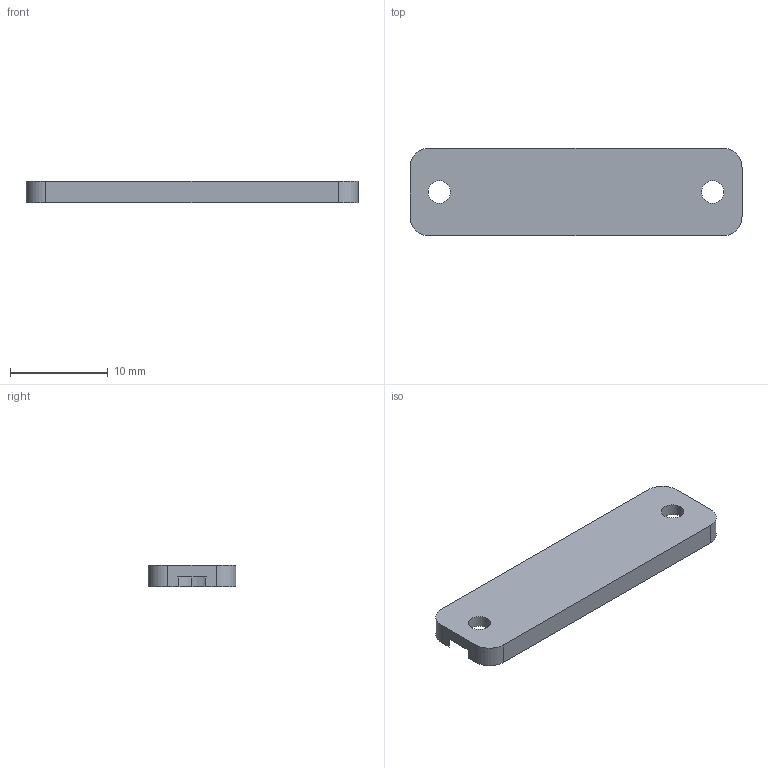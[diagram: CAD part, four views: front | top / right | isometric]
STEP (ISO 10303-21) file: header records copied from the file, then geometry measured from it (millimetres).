
FILE_DESCRIPTION(('Open CASCADE Model'),'2;1');
FILE_NAME('R36_P15_COMPACT_ANTENNA_END_CLAMP','2026-09-15T13:10:23',( 'Author'),('Open CASCADE'),'Open CASCADE STEP processor 7.9', 'build123d','Unknown');
FILE_SCHEMA(('AUTOMOTIVE_DESIGN { 1 0 10303 214 1 1 1 1 }'));
Length unit declared in the file: millimetre
Products named in the file (1): R36_P15_COMPACT_ANTENNA_END_CLAMP
Bounding box: 34 x 9 x 2.2 mm (x, y, z)
Volume: 588.4 mm3; surface area: 817.8 mm2
Topology: 1 solids, 1 shells, 17 faces, 45 edges, 30 vertices
Faces by surface type: cylinder 9, plane 8
Full cylindrical faces by diameter (mm): 2.3 x2
Entity records: 1152 total; most frequent: CARTESIAN_POINT 243, DIRECTION 169, ORIENTED_EDGE 90, PCURVE 90, DEFINITIONAL_REPRESENTATION 90, LINE 87, VECTOR 87, EDGE_CURVE 45
